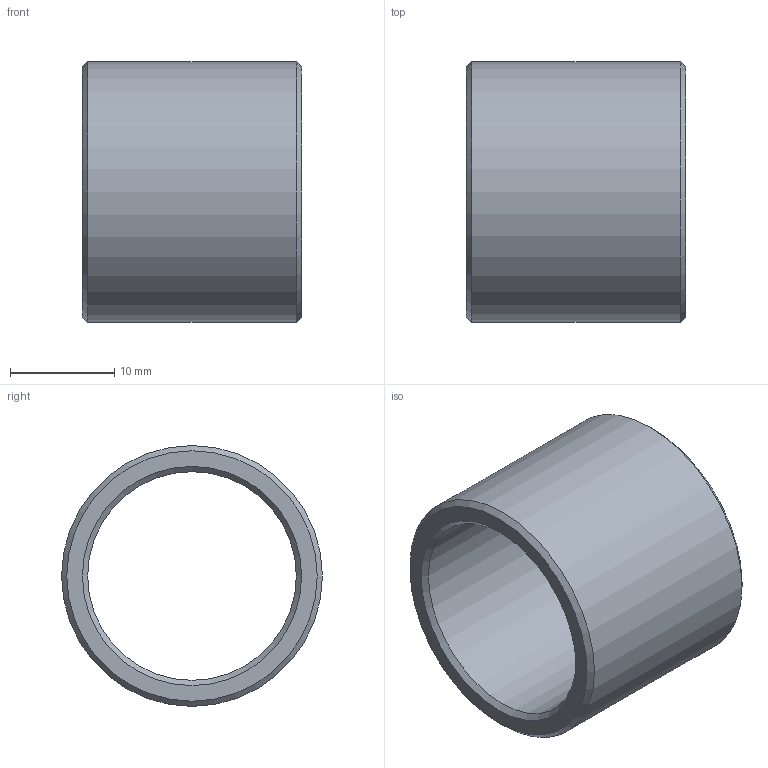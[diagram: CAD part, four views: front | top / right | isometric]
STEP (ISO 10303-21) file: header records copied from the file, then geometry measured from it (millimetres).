
FILE_DESCRIPTION(/* description */ (''),/* implementation_level */ '2;1');
FILE_NAME(/* name */ '',/* time_stamp */ '2024-08-09T13:00:57+09:00',/* author */ ('jhkim'),/* organization */ (''),/* preprocessor_version */ 'ST-DEVELOPER v20',/* originating_system */ 'Autodesk Inventor 2025',/* authorisation */ '');
FILE_SCHEMA (('AUTOMOTIVE_DESIGN { 1 0 10303 214 3 1 1 }'));
Length unit declared in the file: millimetre
Products named in the file (1): 칼라
Bounding box: 21 x 25 x 25 mm (x, y, z)
Volume: 3675.7 mm3; surface area: 3239.4 mm2
Topology: 1 solids, 1 shells, 8 faces, 16 edges, 10 vertices
Faces by surface type: cone 4, plane 2, cylinder 2
Full cylindrical faces by diameter (mm): 20 x1, 25 x1
Entity records: 261 total; most frequent: DIRECTION 44, CARTESIAN_POINT 35, ORIENTED_EDGE 32, AXIS2_PLACEMENT_3D 19, EDGE_CURVE 16, EDGE_LOOP 10, CIRCLE 10, VERTEX_POINT 10
